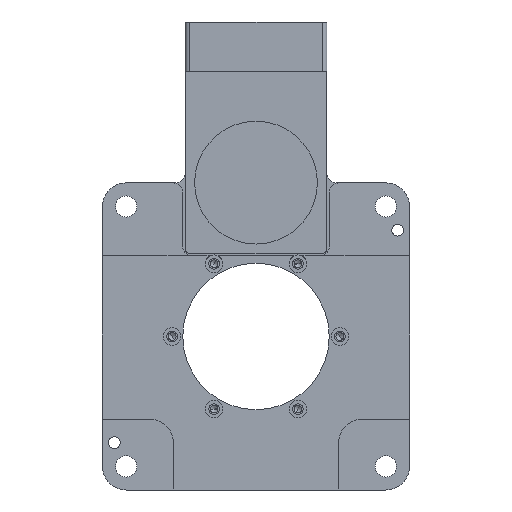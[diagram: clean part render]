
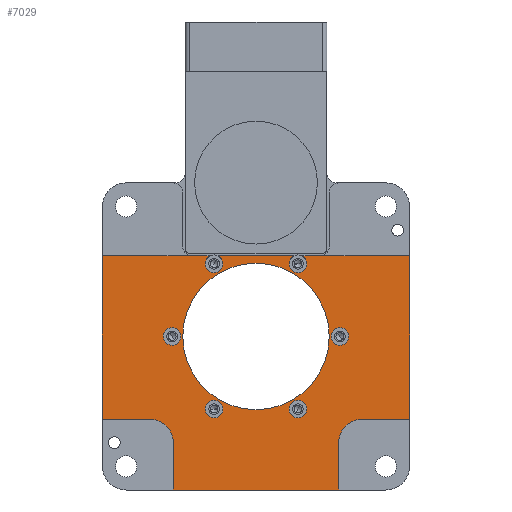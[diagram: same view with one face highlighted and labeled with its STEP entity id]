
A CAD part, front view. The second image highlights one B-rep face of the part: STEP entity #7029.
In plain terms, the highlighted planar face has unit normal (0, -1, 0).
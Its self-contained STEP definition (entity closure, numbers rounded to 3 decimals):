
#4269=CARTESIAN_POINT('',(45.,0.5,-45.));
#4270=DIRECTION('',(0.,1.,0.));
#4271=DIRECTION('',(-1.,0.,0.));
#4272=AXIS2_PLACEMENT_3D('',#4269,#4270,#4271);
#4306=DIRECTION('',(-1.,0.,0.));
#4307=VECTOR('',#4306,70.);
#4308=CARTESIAN_POINT('',(35.,0.5,-65.));
#4309=LINE('',#4308,#4307);
#4342=DIRECTION('',(0.,0.,-1.));
#4343=VECTOR('',#4342,69.1);
#4344=CARTESIAN_POINT('',(65.,0.5,34.1));
#4345=LINE('',#4344,#4343);
#4495=CARTESIAN_POINT('',(17.75,0.5,-30.744));
#4496=DIRECTION('',(0.,-1.,0.));
#4497=DIRECTION('',(-1.,0.,0.));
#4498=AXIS2_PLACEMENT_3D('',#4495,#4496,#4497);
#4500=CARTESIAN_POINT('',(17.75,0.5,-30.744));
#4501=DIRECTION('',(0.,-1.,0.));
#4502=DIRECTION('',(1.,0.,0.));
#4503=AXIS2_PLACEMENT_3D('',#4500,#4501,#4502);
#4505=CARTESIAN_POINT('',(-17.75,0.5,-30.744));
#4506=DIRECTION('',(0.,-1.,0.));
#4507=DIRECTION('',(-1.,0.,0.));
#4508=AXIS2_PLACEMENT_3D('',#4505,#4506,#4507);
#4510=CARTESIAN_POINT('',(-17.75,0.5,-30.744));
#4511=DIRECTION('',(0.,-1.,0.));
#4512=DIRECTION('',(1.,0.,0.));
#4513=AXIS2_PLACEMENT_3D('',#4510,#4511,#4512);
#4515=CARTESIAN_POINT('',(-35.5,0.5,0.));
#4516=DIRECTION('',(0.,-1.,0.));
#4517=DIRECTION('',(-1.,0.,0.));
#4518=AXIS2_PLACEMENT_3D('',#4515,#4516,#4517);
#4520=CARTESIAN_POINT('',(-35.5,0.5,0.));
#4521=DIRECTION('',(0.,-1.,0.));
#4522=DIRECTION('',(1.,0.,0.));
#4523=AXIS2_PLACEMENT_3D('',#4520,#4521,#4522);
#4525=CARTESIAN_POINT('',(35.5,0.5,0.));
#4526=DIRECTION('',(0.,-1.,0.));
#4527=DIRECTION('',(-1.,0.,0.));
#4528=AXIS2_PLACEMENT_3D('',#4525,#4526,#4527);
#4530=CARTESIAN_POINT('',(35.5,0.5,0.));
#4531=DIRECTION('',(0.,-1.,0.));
#4532=DIRECTION('',(1.,0.,0.));
#4533=AXIS2_PLACEMENT_3D('',#4530,#4531,#4532);
#4535=CARTESIAN_POINT('',(-17.75,0.5,30.744));
#4536=DIRECTION('',(0.,-1.,0.));
#4537=DIRECTION('',(1.,0.,0.));
#4538=AXIS2_PLACEMENT_3D('',#4535,#4536,#4537);
#4540=DIRECTION('',(1.,0.,0.));
#4541=VECTOR('',#4540,32.154);
#4542=CARTESIAN_POINT('',(-16.077,0.5,34.1));
#4543=LINE('',#4542,#4541);
#4544=CARTESIAN_POINT('',(17.75,0.5,30.744));
#4545=DIRECTION('',(0.,-1.,0.));
#4546=DIRECTION('',(-0.446,0.,0.895));
#4547=AXIS2_PLACEMENT_3D('',#4544,#4545,#4546);
#4549=CARTESIAN_POINT('',(17.75,0.5,30.744));
#4550=DIRECTION('',(0.,-1.,0.));
#4551=DIRECTION('',(-1.,0.,0.));
#4552=AXIS2_PLACEMENT_3D('',#4549,#4550,#4551);
#4554=CARTESIAN_POINT('',(17.75,0.5,30.744));
#4555=DIRECTION('',(0.,-1.,0.));
#4556=DIRECTION('',(1.,0.,0.));
#4557=AXIS2_PLACEMENT_3D('',#4554,#4555,#4556);
#4559=DIRECTION('',(1.,0.,0.));
#4560=VECTOR('',#4559,7.577);
#4561=CARTESIAN_POINT('',(19.423,0.5,34.1));
#4562=LINE('',#4561,#4560);
#4563=DIRECTION('',(-1.,0.,0.));
#4564=VECTOR('',#4563,38.);
#4565=CARTESIAN_POINT('',(65.,0.5,34.1));
#4566=LINE('',#4565,#4564);
#4567=DIRECTION('',(1.,0.,0.));
#4568=VECTOR('',#4567,20.);
#4569=CARTESIAN_POINT('',(45.,0.5,-35.));
#4570=LINE('',#4569,#4568);
#4571=DIRECTION('',(0.,0.,1.));
#4572=VECTOR('',#4571,20.);
#4573=CARTESIAN_POINT('',(35.,0.5,-65.));
#4574=LINE('',#4573,#4572);
#4575=DIRECTION('',(0.,0.,-1.));
#4576=VECTOR('',#4575,20.);
#4577=CARTESIAN_POINT('',(-35.,0.5,-45.));
#4578=LINE('',#4577,#4576);
#4579=DIRECTION('',(1.,0.,0.));
#4580=VECTOR('',#4579,20.);
#4581=CARTESIAN_POINT('',(-65.,0.5,-35.));
#4582=LINE('',#4581,#4580);
#4583=DIRECTION('',(-1.,0.,0.));
#4584=VECTOR('',#4583,38.);
#4585=CARTESIAN_POINT('',(-27.,0.5,34.1));
#4586=LINE('',#4585,#4584);
#4587=DIRECTION('',(1.,0.,0.));
#4588=VECTOR('',#4587,7.577);
#4589=CARTESIAN_POINT('',(-27.,0.5,34.1));
#4590=LINE('',#4589,#4588);
#4591=CARTESIAN_POINT('',(-17.75,0.5,30.744));
#4592=DIRECTION('',(0.,-1.,0.));
#4593=DIRECTION('',(-0.446,0.,0.895));
#4594=AXIS2_PLACEMENT_3D('',#4591,#4592,#4593);
#4596=CARTESIAN_POINT('',(-17.75,0.5,30.744));
#4597=DIRECTION('',(0.,-1.,0.));
#4598=DIRECTION('',(-1.,0.,0.));
#4599=AXIS2_PLACEMENT_3D('',#4596,#4597,#4598);
#4601=CARTESIAN_POINT('',(0.,0.5,0.));
#4602=DIRECTION('',(0.,1.,0.));
#4603=DIRECTION('',(1.,0.,0.));
#4604=AXIS2_PLACEMENT_3D('',#4601,#4602,#4603);
#4615=CARTESIAN_POINT('',(0.,0.5,0.));
#4616=DIRECTION('',(0.,1.,0.));
#4617=DIRECTION('',(-1.,0.,0.));
#4618=AXIS2_PLACEMENT_3D('',#4615,#4616,#4617);
#5414=DIRECTION('',(0.,0.,1.));
#5415=VECTOR('',#5414,69.1);
#5416=CARTESIAN_POINT('',(-65.,0.5,-35.));
#5417=LINE('',#5416,#5415);
#5446=CARTESIAN_POINT('',(-45.,0.5,-45.));
#5447=DIRECTION('',(0.,1.,0.));
#5448=DIRECTION('',(0.,0.,1.));
#5449=AXIS2_PLACEMENT_3D('',#5446,#5447,#5448);
#5993=CARTESIAN_POINT('',(-65.,0.5,-35.));
#5994=CARTESIAN_POINT('',(-65.,0.5,34.1));
#5995=VERTEX_POINT('',#5993);
#5996=VERTEX_POINT('',#5994);
#5999=CARTESIAN_POINT('',(65.,0.5,34.1));
#6000=CARTESIAN_POINT('',(65.,0.5,-35.));
#6001=VERTEX_POINT('',#5999);
#6002=VERTEX_POINT('',#6000);
#6005=CARTESIAN_POINT('',(35.,0.5,-65.));
#6006=CARTESIAN_POINT('',(-35.,0.5,-65.));
#6007=VERTEX_POINT('',#6005);
#6008=VERTEX_POINT('',#6006);
#6013=CARTESIAN_POINT('',(31.,0.5,0.));
#6014=CARTESIAN_POINT('',(-31.,0.5,0.));
#6015=VERTEX_POINT('',#6013);
#6016=VERTEX_POINT('',#6014);
#6073=CARTESIAN_POINT('',(35.,0.5,-45.));
#6074=VERTEX_POINT('',#6073);
#6075=CARTESIAN_POINT('',(45.,0.5,-35.));
#6076=VERTEX_POINT('',#6075);
#6081=CARTESIAN_POINT('',(-45.,0.5,-35.));
#6082=VERTEX_POINT('',#6081);
#6083=CARTESIAN_POINT('',(-35.,0.5,-45.));
#6084=VERTEX_POINT('',#6083);
#6113=CARTESIAN_POINT('',(14.,0.5,-30.744));
#6114=CARTESIAN_POINT('',(21.5,0.5,-30.744));
#6115=VERTEX_POINT('',#6113);
#6116=VERTEX_POINT('',#6114);
#6125=CARTESIAN_POINT('',(-21.5,0.5,-30.744));
#6126=CARTESIAN_POINT('',(-14.,0.5,-30.744));
#6127=VERTEX_POINT('',#6125);
#6128=VERTEX_POINT('',#6126);
#6137=CARTESIAN_POINT('',(-39.25,0.5,0.));
#6138=CARTESIAN_POINT('',(-31.75,0.5,0.));
#6139=VERTEX_POINT('',#6137);
#6140=VERTEX_POINT('',#6138);
#6149=CARTESIAN_POINT('',(-21.5,0.5,30.744));
#6150=CARTESIAN_POINT('',(-14.,0.5,30.744));
#6151=VERTEX_POINT('',#6149);
#6152=VERTEX_POINT('',#6150);
#6161=CARTESIAN_POINT('',(14.,0.5,30.744));
#6162=CARTESIAN_POINT('',(21.5,0.5,30.744));
#6163=VERTEX_POINT('',#6161);
#6164=VERTEX_POINT('',#6162);
#6173=CARTESIAN_POINT('',(31.75,0.5,0.));
#6174=CARTESIAN_POINT('',(39.25,0.5,0.));
#6175=VERTEX_POINT('',#6173);
#6176=VERTEX_POINT('',#6174);
#6317=CARTESIAN_POINT('',(-16.077,0.5,34.1));
#6318=VERTEX_POINT('',#6317);
#6319=CARTESIAN_POINT('',(-19.423,0.5,34.1));
#6320=VERTEX_POINT('',#6319);
#6325=CARTESIAN_POINT('',(19.423,0.5,34.1));
#6326=VERTEX_POINT('',#6325);
#6327=CARTESIAN_POINT('',(16.077,0.5,34.1));
#6328=VERTEX_POINT('',#6327);
#6409=CARTESIAN_POINT('',(-27.,0.5,34.1));
#6410=VERTEX_POINT('',#6409);
#6417=CARTESIAN_POINT('',(27.,0.5,34.1));
#6418=VERTEX_POINT('',#6417);
#6961=CARTESIAN_POINT('',(0.,0.5,0.));
#6962=DIRECTION('',(0.,-1.,0.));
#6963=DIRECTION('',(-1.,0.,0.));
#6964=AXIS2_PLACEMENT_3D('',#6961,#6962,#6963);
#6965=PLANE('',#6964);
#6966=ORIENTED_EDGE('',*,*,#6947,.T.);
#6967=ORIENTED_EDGE('',*,*,#6906,.T.);
#6969=ORIENTED_EDGE('',*,*,#6968,.T.);
#6971=ORIENTED_EDGE('',*,*,#6970,.T.);
#6973=ORIENTED_EDGE('',*,*,#6972,.T.);
#6974=ORIENTED_EDGE('',*,*,#6935,.T.);
#6976=ORIENTED_EDGE('',*,*,#6975,.F.);
#6977=ORIENTED_EDGE('',*,*,#6666,.T.);
#6979=ORIENTED_EDGE('',*,*,#6978,.F.);
#6980=ORIENTED_EDGE('',*,*,#6581,.F.);
#6981=ORIENTED_EDGE('',*,*,#6597,.F.);
#6982=ORIENTED_EDGE('',*,*,#6624,.T.);
#6984=ORIENTED_EDGE('',*,*,#6983,.F.);
#6986=ORIENTED_EDGE('',*,*,#6985,.F.);
#6988=ORIENTED_EDGE('',*,*,#6987,.F.);
#6990=ORIENTED_EDGE('',*,*,#6989,.T.);
#6992=ORIENTED_EDGE('',*,*,#6991,.F.);
#6993=ORIENTED_EDGE('',*,*,#6918,.T.);
#6994=ORIENTED_EDGE('',*,*,#6955,.T.);
#6996=ORIENTED_EDGE('',*,*,#6995,.T.);
#6997=EDGE_LOOP('',(#6966,#6967,#6969,#6971,#6973,#6974,#6976,#6977,#6979,#6980,
#6981,#6982,#6984,#6986,#6988,#6990,#6992,#6993,#6994,#6996));
#6998=FACE_OUTER_BOUND('',#6997,.F.);
#7000=ORIENTED_EDGE('',*,*,#6999,.T.);
#7002=ORIENTED_EDGE('',*,*,#7001,.T.);
#7003=EDGE_LOOP('',(#7000,#7002));
#7004=FACE_BOUND('',#7003,.F.);
#7006=ORIENTED_EDGE('',*,*,#7005,.T.);
#7008=ORIENTED_EDGE('',*,*,#7007,.T.);
#7009=EDGE_LOOP('',(#7006,#7008));
#7010=FACE_BOUND('',#7009,.F.);
#7012=ORIENTED_EDGE('',*,*,#7011,.T.);
#7014=ORIENTED_EDGE('',*,*,#7013,.T.);
#7015=EDGE_LOOP('',(#7012,#7014));
#7016=FACE_BOUND('',#7015,.F.);
#7018=ORIENTED_EDGE('',*,*,#7017,.T.);
#7020=ORIENTED_EDGE('',*,*,#7019,.T.);
#7021=EDGE_LOOP('',(#7018,#7020));
#7022=FACE_BOUND('',#7021,.F.);
#7024=ORIENTED_EDGE('',*,*,#7023,.F.);
#7026=ORIENTED_EDGE('',*,*,#7025,.F.);
#7027=EDGE_LOOP('',(#7024,#7026));
#7028=FACE_BOUND('',#7027,.F.);
#7029=ADVANCED_FACE('',(#6998,#7004,#7010,#7016,#7022,#7028),#6965,.T.);
#4273=CIRCLE('',#4272,10.);
#4499=CIRCLE('',#4498,3.75);
#4504=CIRCLE('',#4503,3.75);
#4509=CIRCLE('',#4508,3.75);
#4514=CIRCLE('',#4513,3.75);
#4519=CIRCLE('',#4518,3.75);
#4524=CIRCLE('',#4523,3.75);
#4529=CIRCLE('',#4528,3.75);
#4534=CIRCLE('',#4533,3.75);
#4539=CIRCLE('',#4538,3.75);
#4548=CIRCLE('',#4547,3.75);
#4553=CIRCLE('',#4552,3.75);
#4558=CIRCLE('',#4557,3.75);
#4595=CIRCLE('',#4594,3.75);
#4600=CIRCLE('',#4599,3.75);
#4605=CIRCLE('',#4604,31.);
#4619=CIRCLE('',#4618,31.);
#5450=CIRCLE('',#5449,10.);
#6581=EDGE_CURVE('',#6074,#6076,#4273,.T.);
#6597=EDGE_CURVE('',#6007,#6074,#4574,.T.);
#6624=EDGE_CURVE('',#6007,#6008,#4309,.T.);
#6666=EDGE_CURVE('',#6001,#6002,#4345,.T.);
#6906=EDGE_CURVE('',#6318,#6328,#4543,.T.);
#6918=EDGE_CURVE('',#6410,#6320,#4590,.T.);
#6935=EDGE_CURVE('',#6326,#6418,#4562,.T.);
#6947=EDGE_CURVE('',#6152,#6318,#4539,.T.);
#6955=EDGE_CURVE('',#6320,#6151,#4595,.T.);
#6968=EDGE_CURVE('',#6328,#6163,#4548,.T.);
#6970=EDGE_CURVE('',#6163,#6164,#4553,.T.);
#6972=EDGE_CURVE('',#6164,#6326,#4558,.T.);
#6975=EDGE_CURVE('',#6001,#6418,#4566,.T.);
#6978=EDGE_CURVE('',#6076,#6002,#4570,.T.);
#6983=EDGE_CURVE('',#6084,#6008,#4578,.T.);
#6985=EDGE_CURVE('',#6082,#6084,#5450,.T.);
#6987=EDGE_CURVE('',#5995,#6082,#4582,.T.);
#6989=EDGE_CURVE('',#5995,#5996,#5417,.T.);
#6991=EDGE_CURVE('',#6410,#5996,#4586,.T.);
#6995=EDGE_CURVE('',#6151,#6152,#4600,.T.);
#6999=EDGE_CURVE('',#6115,#6116,#4499,.T.);
#7001=EDGE_CURVE('',#6116,#6115,#4504,.T.);
#7005=EDGE_CURVE('',#6127,#6128,#4509,.T.);
#7007=EDGE_CURVE('',#6128,#6127,#4514,.T.);
#7011=EDGE_CURVE('',#6139,#6140,#4519,.T.);
#7013=EDGE_CURVE('',#6140,#6139,#4524,.T.);
#7017=EDGE_CURVE('',#6175,#6176,#4529,.T.);
#7019=EDGE_CURVE('',#6176,#6175,#4534,.T.);
#7023=EDGE_CURVE('',#6015,#6016,#4605,.T.);
#7025=EDGE_CURVE('',#6016,#6015,#4619,.T.);
